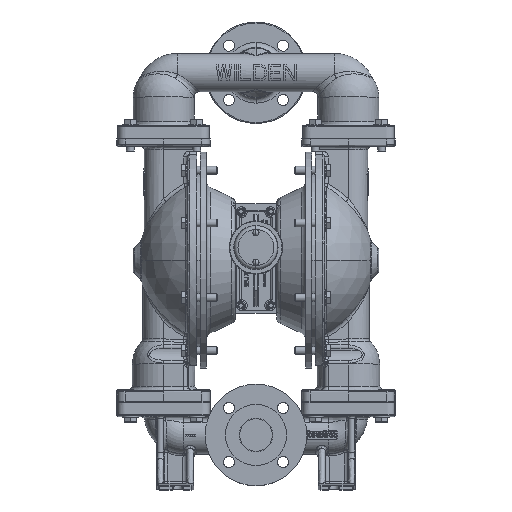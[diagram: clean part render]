
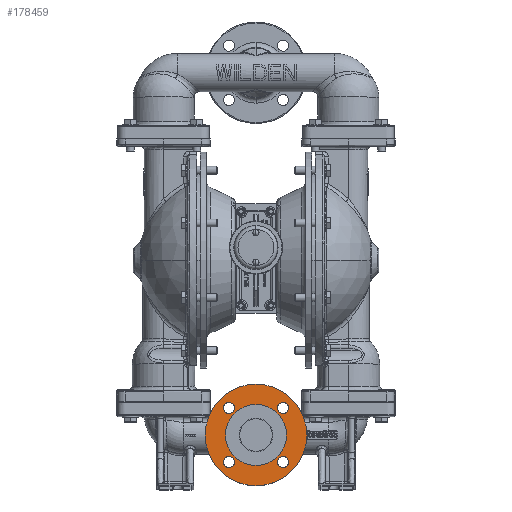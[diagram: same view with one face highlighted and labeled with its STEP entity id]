
A CAD part, top view. The second image highlights one B-rep face of the part: STEP entity #178459.
In plain terms, the highlighted planar face has unit normal (0, 0, 1).
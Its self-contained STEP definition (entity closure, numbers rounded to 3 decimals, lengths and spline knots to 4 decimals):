
#4586 = ORIENTED_EDGE ( 'NONE', *, *, #151717, .F. ) ;
#5600 = CARTESIAN_POINT ( 'NONE',  ( -1.3845, -12.9195, 4.54 ) ) ;
#10956 = EDGE_LOOP ( 'NONE', ( #153895, #34179 ) ) ;
#12825 = AXIS2_PLACEMENT_3D ( 'NONE', #137797, #162878, #283840 ) ;
#15817 = FACE_BOUND ( 'NONE', #269822, .T. ) ;
#17649 = CIRCLE ( 'NONE', #77776, 0.355 ) ;
#20948 = VERTEX_POINT ( 'NONE', #132590 ) ;
#25016 = CARTESIAN_POINT ( 'NONE',  ( 2.0945, -9.4405, 4.54 ) ) ;
#28776 = AXIS2_PLACEMENT_3D ( 'NONE', #137478, #161052, #252225 ) ;
#32996 = CIRCLE ( 'NONE', #12825, 0.355 ) ;
#33050 = CIRCLE ( 'NONE', #78379, 0.355 ) ;
#33163 = FACE_BOUND ( 'NONE', #215778, .T. ) ;
#33591 = CARTESIAN_POINT ( 'NONE',  ( 1.7395, -12.5645, 4.54 ) ) ;
#33718 = CIRCLE ( 'NONE', #274546, 3.25 ) ;
#34179 = ORIENTED_EDGE ( 'NONE', *, *, #50890, .F. ) ;
#36445 = VERTEX_POINT ( 'NONE', #106215 ) ;
#39103 = EDGE_CURVE ( 'NONE', #168121, #132399, #33718, .T. ) ;
#39138 = VERTEX_POINT ( 'NONE', #25016 ) ;
#39369 = FACE_OUTER_BOUND ( 'NONE', #273346, .T. ) ;
#39437 = EDGE_CURVE ( 'NONE', #172053, #20948, #48793, .T. ) ;
#45514 = CARTESIAN_POINT ( 'NONE',  ( 0., -11.18, 4.54 ) ) ;
#48278 = AXIS2_PLACEMENT_3D ( 'NONE', #96170, #121254, #218588 ) ;
#48793 = CIRCLE ( 'NONE', #28776, 0.355 ) ;
#50890 = EDGE_CURVE ( 'NONE', #138924, #289413, #233189, .T. ) ;
#52871 = CARTESIAN_POINT ( 'NONE',  ( 0., -11.18, 4.54 ) ) ;
#66027 = DIRECTION ( 'NONE',  ( 0., 1., 0. ) ) ;
#66987 = ORIENTED_EDGE ( 'NONE', *, *, #172881, .F. ) ;
#67745 = DIRECTION ( 'NONE',  ( 0., 0., 1. ) ) ;
#68598 = CARTESIAN_POINT ( 'NONE',  ( 1.7395, -9.4405, 4.54 ) ) ;
#74986 = CIRCLE ( 'NONE', #175397, 0.355 ) ;
#77776 = AXIS2_PLACEMENT_3D ( 'NONE', #244367, #150095, #126522 ) ;
#78379 = AXIS2_PLACEMENT_3D ( 'NONE', #68598, #239755, #165971 ) ;
#85150 = ORIENTED_EDGE ( 'NONE', *, *, #39103, .F. ) ;
#91354 = DIRECTION ( 'NONE',  ( -1., 0., 0. ) ) ;
#93340 = CIRCLE ( 'NONE', #48278, 1.95 ) ;
#96170 = CARTESIAN_POINT ( 'NONE',  ( 0., -11.18, 4.54 ) ) ;
#106215 = CARTESIAN_POINT ( 'NONE',  ( 1.3845, -9.4405, 4.54 ) ) ;
#111447 = ORIENTED_EDGE ( 'NONE', *, *, #39437, .F. ) ;
#111643 = DIRECTION ( 'NONE',  ( 0., 0., 1. ) ) ;
#114252 = EDGE_CURVE ( 'NONE', #277551, #193996, #273911, .T. ) ;
#121254 = DIRECTION ( 'NONE',  ( 0., 0., 1. ) ) ;
#122248 = CARTESIAN_POINT ( 'NONE',  ( -1.7395, -9.7955, 4.54 ) ) ;
#122737 = EDGE_CURVE ( 'NONE', #131072, #173080, #175225, .T. ) ;
#123934 = CARTESIAN_POINT ( 'NONE',  ( 0., -14.43, 4.54 ) ) ;
#126522 = DIRECTION ( 'NONE',  ( 0., 1., 0. ) ) ;
#128174 = DIRECTION ( 'NONE',  ( 0., -1., 0. ) ) ;
#131072 = VERTEX_POINT ( 'NONE', #176863 ) ;
#132399 = VERTEX_POINT ( 'NONE', #123934 ) ;
#132580 = CARTESIAN_POINT ( 'NONE',  ( 0., -7.93, 4.54 ) ) ;
#132590 = CARTESIAN_POINT ( 'NONE',  ( -1.7395, -9.0855, 4.54 ) ) ;
#133113 = DIRECTION ( 'NONE',  ( 0., 0., 1. ) ) ;
#137478 = CARTESIAN_POINT ( 'NONE',  ( -1.7395, -9.4405, 4.54 ) ) ;
#137797 = CARTESIAN_POINT ( 'NONE',  ( -1.7395, -9.4405, 4.54 ) ) ;
#138924 = VERTEX_POINT ( 'NONE', #173577 ) ;
#150095 = DIRECTION ( 'NONE',  ( 0., 0., 1. ) ) ;
#151717 = EDGE_CURVE ( 'NONE', #131072, #173080, #93340, .T. ) ;
#153895 = ORIENTED_EDGE ( 'NONE', *, *, #308424, .F. ) ;
#157380 = EDGE_LOOP ( 'NONE', ( #201431, #66987 ) ) ;
#158309 = CARTESIAN_POINT ( 'NONE',  ( 1.7395, -13.2745, 4.54 ) ) ;
#158675 = AXIS2_PLACEMENT_3D ( 'NONE', #223607, #198495, #295914 ) ;
#159778 = CARTESIAN_POINT ( 'NONE',  ( 0., -13.13, 4.54 ) ) ;
#161052 = DIRECTION ( 'NONE',  ( 0., 0., 1. ) ) ;
#161128 = DIRECTION ( 'NONE',  ( 0., 1., 0. ) ) ;
#162267 = CIRCLE ( 'NONE', #187159, 3.25 ) ;
#162878 = DIRECTION ( 'NONE',  ( 0., 0., 1. ) ) ;
#164175 = EDGE_LOOP ( 'NONE', ( #175391, #4586 ) ) ;
#165971 = DIRECTION ( 'NONE',  ( -1., 0., 0. ) ) ;
#168121 = VERTEX_POINT ( 'NONE', #132580 ) ;
#172053 = VERTEX_POINT ( 'NONE', #122248 ) ;
#172881 = EDGE_CURVE ( 'NONE', #39138, #36445, #273619, .T. ) ;
#173080 = VERTEX_POINT ( 'NONE', #159778 ) ;
#173577 = CARTESIAN_POINT ( 'NONE',  ( -2.0945, -12.9195, 4.54 ) ) ;
#175225 = CIRCLE ( 'NONE', #280630, 1.95 ) ;
#175391 = ORIENTED_EDGE ( 'NONE', *, *, #122737, .T. ) ;
#175397 = AXIS2_PLACEMENT_3D ( 'NONE', #230159, #307066, #183007 ) ;
#176863 = CARTESIAN_POINT ( 'NONE',  ( 0., -9.23, 4.54 ) ) ;
#178459 = ADVANCED_FACE ( 'NONE', ( #39369, #180776, #229439, #15817, #224781, #33163 ), #297098, .T. ) ;
#180776 = FACE_BOUND ( 'NONE', #164175, .T. ) ;
#183007 = DIRECTION ( 'NONE',  ( 1., 0., 0. ) ) ;
#184663 = CARTESIAN_POINT ( 'NONE',  ( 0., -11.18, 4.54 ) ) ;
#185351 = DIRECTION ( 'NONE',  ( 0., 0., -1. ) ) ;
#187159 = AXIS2_PLACEMENT_3D ( 'NONE', #52871, #294717, #128174 ) ;
#193996 = VERTEX_POINT ( 'NONE', #33591 ) ;
#198495 = DIRECTION ( 'NONE',  ( 0., 0., 1. ) ) ;
#201431 = ORIENTED_EDGE ( 'NONE', *, *, #261258, .F. ) ;
#203112 = EDGE_CURVE ( 'NONE', #132399, #168121, #162267, .T. ) ;
#203778 = DIRECTION ( 'NONE',  ( 1., 0., 0. ) ) ;
#215778 = EDGE_LOOP ( 'NONE', ( #111447, #294722 ) ) ;
#218588 = DIRECTION ( 'NONE',  ( 0., 1., 0. ) ) ;
#223607 = CARTESIAN_POINT ( 'NONE',  ( 1.7395, -12.9195, 4.54 ) ) ;
#224781 = FACE_BOUND ( 'NONE', #10956, .T. ) ;
#229439 = FACE_BOUND ( 'NONE', #157380, .T. ) ;
#230159 = CARTESIAN_POINT ( 'NONE',  ( -1.7395, -12.9195, 4.54 ) ) ;
#230482 = CARTESIAN_POINT ( 'NONE',  ( 1.7395, -9.4405, 4.54 ) ) ;
#233189 = CIRCLE ( 'NONE', #273319, 0.355 ) ;
#239755 = DIRECTION ( 'NONE',  ( 0., 0., 1. ) ) ;
#242384 = EDGE_CURVE ( 'NONE', #193996, #277551, #17649, .T. ) ;
#244367 = CARTESIAN_POINT ( 'NONE',  ( 1.7395, -12.9195, 4.54 ) ) ;
#251495 = CARTESIAN_POINT ( 'NONE',  ( 0., -11.18, 4.54 ) ) ;
#252225 = DIRECTION ( 'NONE',  ( 0., -1., 0. ) ) ;
#254713 = CARTESIAN_POINT ( 'NONE',  ( -1.7395, -12.9195, 4.54 ) ) ;
#255001 = AXIS2_PLACEMENT_3D ( 'NONE', #251495, #111643, #300178 ) ;
#261258 = EDGE_CURVE ( 'NONE', #36445, #39138, #33050, .T. ) ;
#269822 = EDGE_LOOP ( 'NONE', ( #288470, #305172 ) ) ;
#273319 = AXIS2_PLACEMENT_3D ( 'NONE', #254713, #67745, #91354 ) ;
#273346 = EDGE_LOOP ( 'NONE', ( #303842, #85150 ) ) ;
#273619 = CIRCLE ( 'NONE', #303702, 0.355 ) ;
#273911 = CIRCLE ( 'NONE', #158675, 0.355 ) ;
#274546 = AXIS2_PLACEMENT_3D ( 'NONE', #45514, #185351, #66027 ) ;
#277551 = VERTEX_POINT ( 'NONE', #158309 ) ;
#280502 = DIRECTION ( 'NONE',  ( 0., 0., -1. ) ) ;
#280630 = AXIS2_PLACEMENT_3D ( 'NONE', #184663, #280502, #161128 ) ;
#283840 = DIRECTION ( 'NONE',  ( 0., 1., 0. ) ) ;
#284159 = EDGE_CURVE ( 'NONE', #20948, #172053, #32996, .T. ) ;
#288470 = ORIENTED_EDGE ( 'NONE', *, *, #242384, .F. ) ;
#289413 = VERTEX_POINT ( 'NONE', #5600 ) ;
#294717 = DIRECTION ( 'NONE',  ( 0., 0., -1. ) ) ;
#294722 = ORIENTED_EDGE ( 'NONE', *, *, #284159, .F. ) ;
#295914 = DIRECTION ( 'NONE',  ( 0., -1., 0. ) ) ;
#297098 = PLANE ( 'NONE',  #255001 ) ;
#300178 = DIRECTION ( 'NONE',  ( 1., 0., 0. ) ) ;
#303702 = AXIS2_PLACEMENT_3D ( 'NONE', #230482, #133113, #203778 ) ;
#303842 = ORIENTED_EDGE ( 'NONE', *, *, #203112, .F. ) ;
#305172 = ORIENTED_EDGE ( 'NONE', *, *, #114252, .F. ) ;
#307066 = DIRECTION ( 'NONE',  ( 0., 0., 1. ) ) ;
#308424 = EDGE_CURVE ( 'NONE', #289413, #138924, #74986, .T. ) ;
